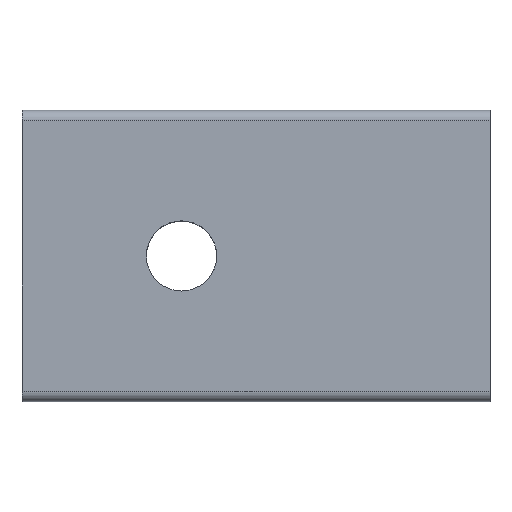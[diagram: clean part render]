
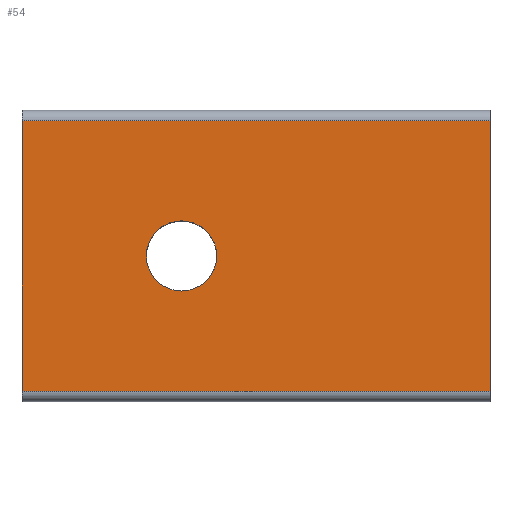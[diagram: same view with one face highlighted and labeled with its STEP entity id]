
A CAD part, top view. The second image highlights one B-rep face of the part: STEP entity #54.
In plain terms, the highlighted planar face has unit normal (0, 0, 1).
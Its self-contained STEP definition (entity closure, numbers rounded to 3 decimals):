
#11 = EDGE_LOOP ( 'NONE', ( #394, #463, #286, #558 ) ) ;
#20 = DIRECTION ( 'NONE',  ( 0., 0., 1. ) ) ;
#22 = FACE_OUTER_BOUND ( 'NONE', #11, .T. ) ;
#32 = AXIS2_PLACEMENT_3D ( 'NONE', #448, #368, #231 ) ;
#33 = CARTESIAN_POINT ( 'NONE',  ( 1.65, 0., 0. ) ) ;
#39 = AXIS2_PLACEMENT_3D ( 'NONE', #216, #20, #530 ) ;
#42 = LINE ( 'NONE', #339, #97 ) ;
#49 = DIRECTION ( 'NONE',  ( -1., 0., 0. ) ) ;
#53 = VERTEX_POINT ( 'NONE', #221 ) ;
#54 = ADVANCED_FACE ( 'NONE', ( #267, #22 ), #309, .F. ) ;
#82 = VERTEX_POINT ( 'NONE', #479 ) ;
#97 = VECTOR ( 'NONE', #49, 1000. ) ;
#106 = LINE ( 'NONE', #418, #389 ) ;
#109 = CARTESIAN_POINT ( 'NONE',  ( 14.5, -6.35, 0. ) ) ;
#138 = ORIENTED_EDGE ( 'NONE', *, *, #294, .F. ) ;
#139 = VECTOR ( 'NONE', #561, 1000. ) ;
#140 = EDGE_CURVE ( 'NONE', #581, #156, #380, .T. ) ;
#156 = VERTEX_POINT ( 'NONE', #341 ) ;
#158 = EDGE_LOOP ( 'NONE', ( #166, #138 ) ) ;
#166 = ORIENTED_EDGE ( 'NONE', *, *, #362, .F. ) ;
#191 = DIRECTION ( 'NONE',  ( 0., -1., 0. ) ) ;
#193 = EDGE_CURVE ( 'NONE', #53, #581, #390, .T. ) ;
#199 = CIRCLE ( 'NONE', #32, 1.65 ) ;
#210 = CARTESIAN_POINT ( 'NONE',  ( 14.5, 6.35, 0. ) ) ;
#216 = CARTESIAN_POINT ( 'NONE',  ( 0., 0., 0. ) ) ;
#221 = CARTESIAN_POINT ( 'NONE',  ( 14.5, 6.35, 0. ) ) ;
#231 = DIRECTION ( 'NONE',  ( 1., 0., 0. ) ) ;
#234 = CARTESIAN_POINT ( 'NONE',  ( -1.65, 0., 0. ) ) ;
#267 = FACE_BOUND ( 'NONE', #158, .T. ) ;
#286 = ORIENTED_EDGE ( 'NONE', *, *, #193, .F. ) ;
#294 = EDGE_CURVE ( 'NONE', #563, #419, #516, .T. ) ;
#303 = DIRECTION ( 'NONE',  ( 0., -1., 0. ) ) ;
#309 = PLANE ( 'NONE',  #488 ) ;
#339 = CARTESIAN_POINT ( 'NONE',  ( 14.5, 6.35, 0. ) ) ;
#341 = CARTESIAN_POINT ( 'NONE',  ( -7.5, -6.35, 0. ) ) ;
#362 = EDGE_CURVE ( 'NONE', #419, #563, #199, .T. ) ;
#368 = DIRECTION ( 'NONE',  ( 0., 0., 1. ) ) ;
#377 = VECTOR ( 'NONE', #303, 1000. ) ;
#380 = LINE ( 'NONE', #109, #139 ) ;
#389 = VECTOR ( 'NONE', #191, 1000. ) ;
#390 = LINE ( 'NONE', #489, #377 ) ;
#394 = ORIENTED_EDGE ( 'NONE', *, *, #572, .T. ) ;
#418 = CARTESIAN_POINT ( 'NONE',  ( -7.5, 6.35, 0. ) ) ;
#419 = VERTEX_POINT ( 'NONE', #33 ) ;
#423 = CARTESIAN_POINT ( 'NONE',  ( 14.5, -6.35, 0. ) ) ;
#447 = DIRECTION ( 'NONE',  ( 0., 0., -1. ) ) ;
#448 = CARTESIAN_POINT ( 'NONE',  ( 0., 0., 0. ) ) ;
#463 = ORIENTED_EDGE ( 'NONE', *, *, #140, .F. ) ;
#479 = CARTESIAN_POINT ( 'NONE',  ( -7.5, 6.35, 0. ) ) ;
#488 = AXIS2_PLACEMENT_3D ( 'NONE', #210, #447, #538 ) ;
#489 = CARTESIAN_POINT ( 'NONE',  ( 14.5, 6.35, 0. ) ) ;
#516 = CIRCLE ( 'NONE', #39, 1.65 ) ;
#530 = DIRECTION ( 'NONE',  ( 1., 0., 0. ) ) ;
#538 = DIRECTION ( 'NONE',  ( -1., 0., 0. ) ) ;
#558 = ORIENTED_EDGE ( 'NONE', *, *, #586, .T. ) ;
#561 = DIRECTION ( 'NONE',  ( -1., 0., 0. ) ) ;
#563 = VERTEX_POINT ( 'NONE', #234 ) ;
#572 = EDGE_CURVE ( 'NONE', #82, #156, #106, .T. ) ;
#581 = VERTEX_POINT ( 'NONE', #423 ) ;
#586 = EDGE_CURVE ( 'NONE', #53, #82, #42, .T. ) ;
